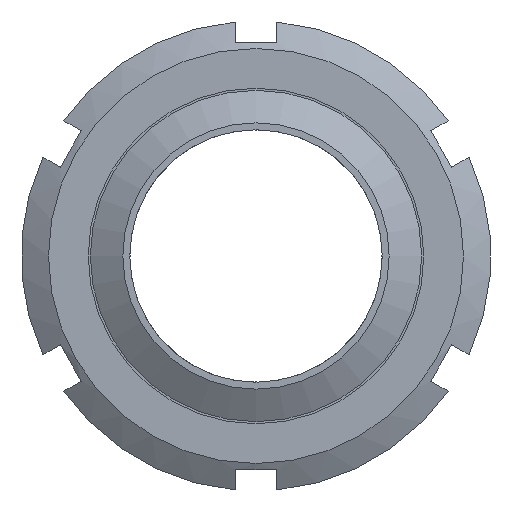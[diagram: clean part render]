
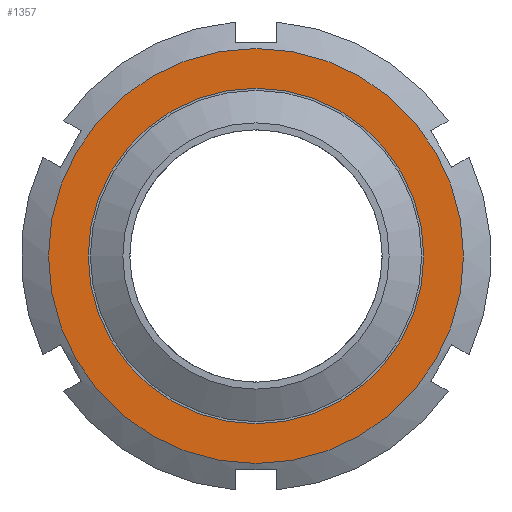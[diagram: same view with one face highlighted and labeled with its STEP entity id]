
A CAD part, front view. The second image highlights one B-rep face of the part: STEP entity #1357.
In plain terms, the highlighted planar face has unit normal (0, -1, 0) as drawn and (1, 0, 0) by its records, which use the part's own axes.
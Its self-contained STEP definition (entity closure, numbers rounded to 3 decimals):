
#200=FACE_BOUND('',#373,.T.);
#230=PLANE('',#1653);
#295=FACE_OUTER_BOUND('',#372,.T.);
#372=EDGE_LOOP('',(#1213,#1214));
#373=EDGE_LOOP('',(#1215,#1216));
#473=CIRCLE('',#1627,49.472);
#474=CIRCLE('',#1628,49.472);
#489=CIRCLE('',#1654,40.);
#490=CIRCLE('',#1655,40.);
#621=VERTEX_POINT('',#2509);
#622=VERTEX_POINT('',#2510);
#633=VERTEX_POINT('',#2572);
#634=VERTEX_POINT('',#2573);
#802=EDGE_CURVE('',#621,#622,#473,.T.);
#803=EDGE_CURVE('',#622,#621,#474,.T.);
#830=EDGE_CURVE('',#633,#634,#489,.T.);
#831=EDGE_CURVE('',#634,#633,#490,.T.);
#1213=ORIENTED_EDGE('',*,*,#802,.T.);
#1214=ORIENTED_EDGE('',*,*,#803,.T.);
#1215=ORIENTED_EDGE('',*,*,#830,.F.);
#1216=ORIENTED_EDGE('',*,*,#831,.F.);
#1357=ADVANCED_FACE('',(#295,#200),#230,.T.);
#1627=AXIS2_PLACEMENT_3D('',#2511,#2006,#2007);
#1628=AXIS2_PLACEMENT_3D('',#2512,#2008,#2009);
#1653=AXIS2_PLACEMENT_3D('',#2571,#2064,#2065);
#1654=AXIS2_PLACEMENT_3D('',#2574,#2066,#2067);
#1655=AXIS2_PLACEMENT_3D('',#2575,#2068,#2069);
#2006=DIRECTION('center_axis',(1.,0.,0.));
#2007=DIRECTION('ref_axis',(0.,0.,-1.));
#2008=DIRECTION('center_axis',(1.,0.,0.));
#2009=DIRECTION('ref_axis',(0.,0.,-1.));
#2064=DIRECTION('center_axis',(1.,0.,0.));
#2065=DIRECTION('ref_axis',(0.,0.,-1.));
#2066=DIRECTION('center_axis',(1.,0.,0.));
#2067=DIRECTION('ref_axis',(0.,0.,-1.));
#2068=DIRECTION('center_axis',(1.,0.,0.));
#2069=DIRECTION('ref_axis',(0.,0.,-1.));
#2509=CARTESIAN_POINT('',(25.,49.472,0.));
#2510=CARTESIAN_POINT('',(25.,-49.472,0.));
#2511=CARTESIAN_POINT('Origin',(25.,0.,0.));
#2512=CARTESIAN_POINT('Origin',(25.,0.,0.));
#2571=CARTESIAN_POINT('Origin',(25.,40.,0.));
#2572=CARTESIAN_POINT('',(25.,40.,0.));
#2573=CARTESIAN_POINT('',(25.,-40.,0.));
#2574=CARTESIAN_POINT('Origin',(25.,0.,0.));
#2575=CARTESIAN_POINT('Origin',(25.,0.,0.));
